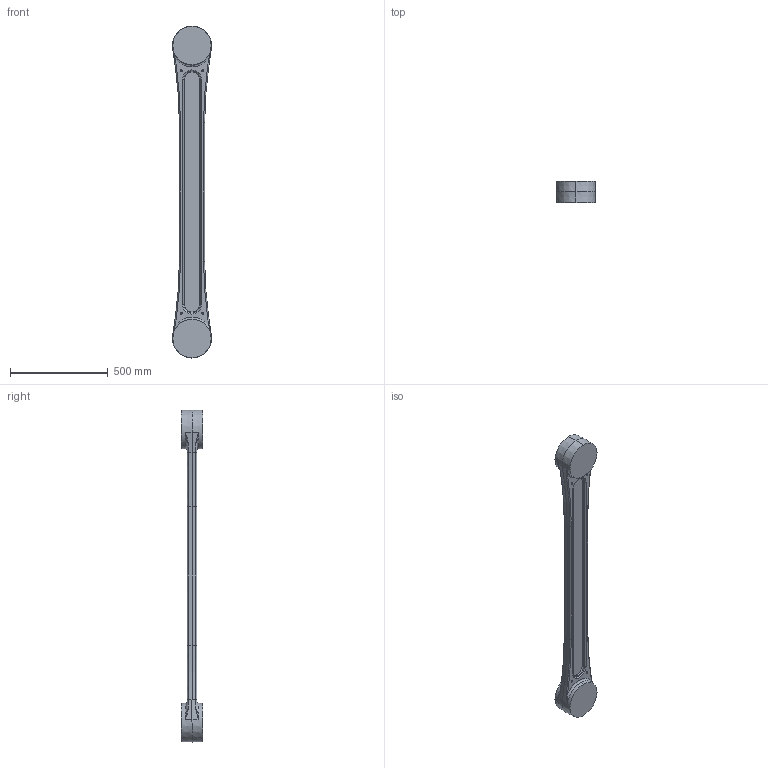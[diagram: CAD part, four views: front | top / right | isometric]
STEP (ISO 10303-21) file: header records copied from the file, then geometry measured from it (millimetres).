
FILE_DESCRIPTION(('CATIA V5 STEP Exchange','CAx-IF Rec.Pracs.--- Model Styling and Organization---1.2---2011-12-15','CAx-IF Rec.Pracs.--- Geometric and Assembly Validation Properties ---3.1---2011-10-19'),'2;1');
FILE_NAME('Z:\ROBOT\CATIA06\products\MC1000DL\Light_model\Step\040_J3_Link_MC1000DL-02.stp','2016-12-26T04:08:08+00:00',('none'),('none'),'Version 5-6 Release 2012','CATIA V5 STEP AP214','none');
FILE_SCHEMA(('AUTOMOTIVE_DESIGN { 1 0 10303 214 1 1 1 1 }'));
Length unit declared in the file: millimetre
Products named in the file (1): 040_J3_Link_MC1000DL-02
Bounding box: 199.9 x 108 x 1700 mm (x, y, z)
Volume: 11991233.7 mm3; surface area: 799788.5 mm2
Topology: 1 solids, 1 shells, 108 faces, 265 edges, 153 vertices
Faces by surface type: cylinder 48, plane 24, bspline 16, torus 12, cone 8
Entity records: 4678 total; most frequent: CARTESIAN_POINT 2361, ORIENTED_EDGE 514, DIRECTION 359, EDGE_CURVE 257, AXIS2_PLACEMENT_3D 189, VERTEX_POINT 153, EDGE_LOOP 118, ADVANCED_FACE 108
